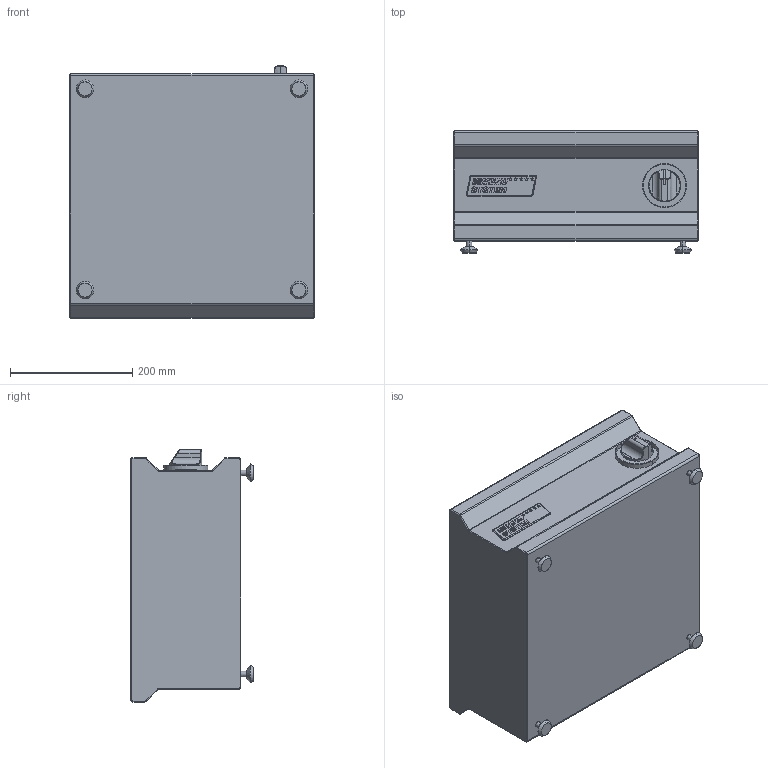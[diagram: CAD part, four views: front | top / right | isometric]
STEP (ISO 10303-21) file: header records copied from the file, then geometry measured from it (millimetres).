
FILE_DESCRIPTION (( 'STEP AP214' ), '1' );
FILE_NAME ('MS-I-Wok300.STEP', '2015-08-05T09:27:02', ( 'T. Weiss' ), ( 'Menusystem AG' ), 'SwSTEP 2.0', 'SolidWorks 2012', '' );
FILE_SCHEMA (( 'AUTOMOTIVE_DESIGN' ));
Length unit declared in the file: millimetre
Products named in the file (1): MS-I-Wok300
Bounding box: 400 x 200.18 x 412.44 mm (x, y, z)
Volume: 23537955.6 mm3; surface area: 664883.1 mm2
Topology: 6 solids, 6 shells, 463 faces, 1183 edges, 752 vertices
Faces by surface type: plane 244, cylinder 97, bspline 80, cone 42
Entity records: 18054 total; most frequent: CARTESIAN_POINT 7161, ORIENTED_EDGE 2362, DIRECTION 2032, EDGE_CURVE 1181, LINE 778, VECTOR 778, VERTEX_POINT 752, AXIS2_PLACEMENT_3D 627
